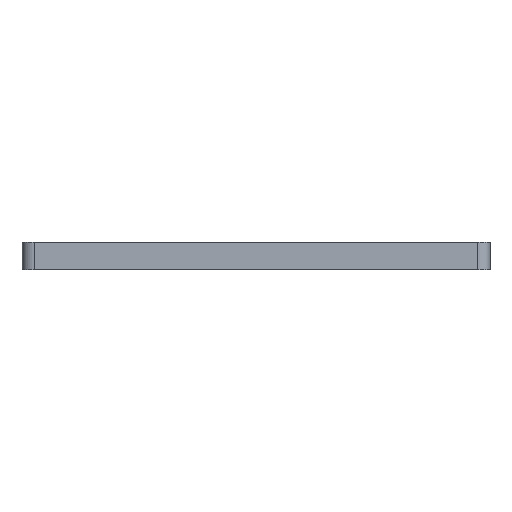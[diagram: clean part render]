
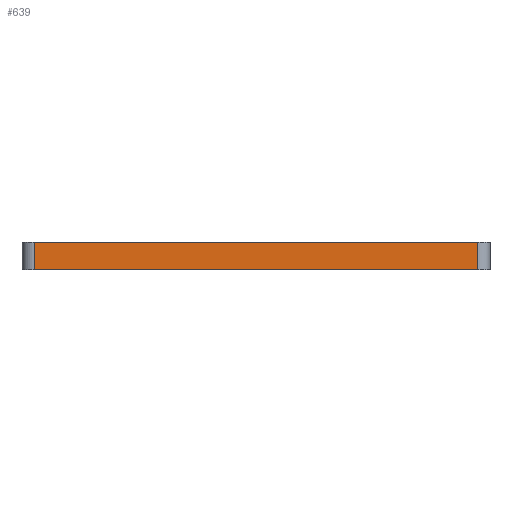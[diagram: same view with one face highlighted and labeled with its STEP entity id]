
A CAD part, front view. The second image highlights one B-rep face of the part: STEP entity #639.
In plain terms, the highlighted planar face has unit normal (0, -1, 0).
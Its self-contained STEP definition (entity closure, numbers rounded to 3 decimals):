
#612 = VERTEX_POINT('',#613);
#613 = CARTESIAN_POINT('',(45.73,7.,2.265));
#620 = EDGE_CURVE('',#621,#612,#623,.T.);
#621 = VERTEX_POINT('',#622);
#622 = CARTESIAN_POINT('',(45.73,7.,0.));
#623 = LINE('',#624,#625);
#624 = CARTESIAN_POINT('',(45.73,7.,0.));
#625 = VECTOR('',#626,1.);
#626 = DIRECTION('',(0.,0.,1.));
#639 = ADVANCED_FACE('',(#640),#665,.T.);
#640 = FACE_BOUND('',#641,.T.);
#641 = EDGE_LOOP('',(#642,#643,#651,#659));
#642 = ORIENTED_EDGE('',*,*,#620,.T.);
#643 = ORIENTED_EDGE('',*,*,#644,.T.);
#644 = EDGE_CURVE('',#612,#645,#647,.T.);
#645 = VERTEX_POINT('',#646);
#646 = CARTESIAN_POINT('',(9.01,7.,2.265));
#647 = LINE('',#648,#649);
#648 = CARTESIAN_POINT('',(45.73,7.,2.265));
#649 = VECTOR('',#650,1.);
#650 = DIRECTION('',(-1.,0.,0.));
#651 = ORIENTED_EDGE('',*,*,#652,.F.);
#652 = EDGE_CURVE('',#653,#645,#655,.T.);
#653 = VERTEX_POINT('',#654);
#654 = CARTESIAN_POINT('',(9.01,7.,0.));
#655 = LINE('',#656,#657);
#656 = CARTESIAN_POINT('',(9.01,7.,0.));
#657 = VECTOR('',#658,1.);
#658 = DIRECTION('',(0.,0.,1.));
#659 = ORIENTED_EDGE('',*,*,#660,.F.);
#660 = EDGE_CURVE('',#621,#653,#661,.T.);
#661 = LINE('',#662,#663);
#662 = CARTESIAN_POINT('',(45.73,7.,0.));
#663 = VECTOR('',#664,1.);
#664 = DIRECTION('',(-1.,0.,0.));
#665 = PLANE('',#666);
#666 = AXIS2_PLACEMENT_3D('',#667,#668,#669);
#667 = CARTESIAN_POINT('',(45.73,7.,0.));
#668 = DIRECTION('',(0.,-1.,0.));
#669 = DIRECTION('',(-1.,0.,0.));
